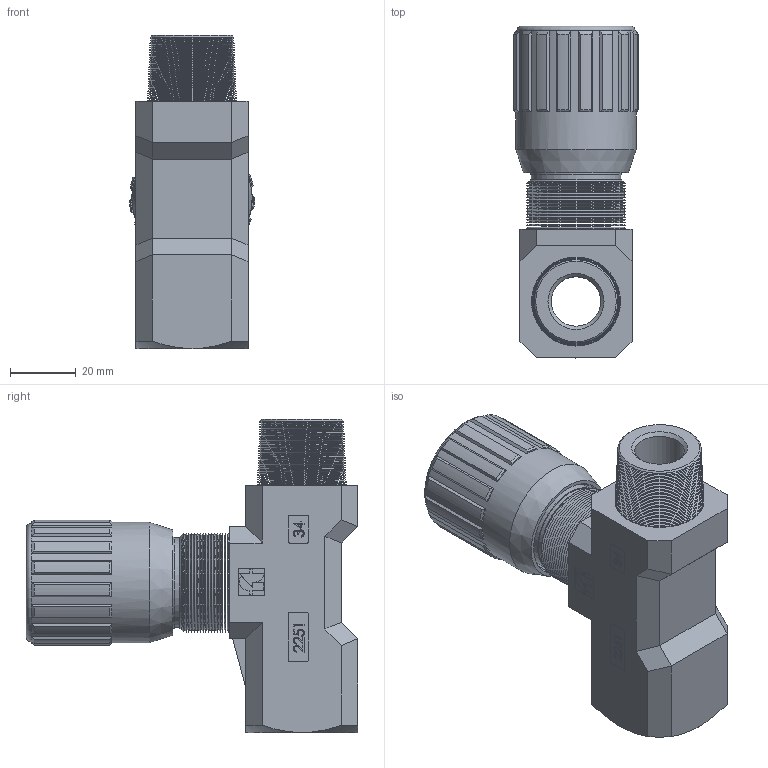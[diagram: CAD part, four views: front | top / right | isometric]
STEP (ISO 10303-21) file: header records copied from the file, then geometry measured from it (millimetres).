
FILE_DESCRIPTION (( 'STEP AP214' ), '1' );
FILE_NAME ('FT2251-2-34 - MF.STEP', '2015-04-16T13:04:16', ( 'cperuzzotti' ), ( 'Hewlett-Packard Company' ), 'SwSTEP 2.0', 'SolidWorks 2014', '' );
FILE_SCHEMA (( 'AUTOMOTIVE_DESIGN' ));
Length unit declared in the file: millimetre
Products named in the file (1): FT2251-2-34 - MF
Bounding box: 37.99 x 100.6 x 95 mm (x, y, z)
Surface area: 30600.9 mm2 (no closed solid volume)
Topology: 0 solids, 29 shells, 542 faces, 1803 edges, 1212 vertices
Faces by surface type: plane 289, cone 165, cylinder 56, bspline 31, torus 1
Full cylindrical faces by diameter (mm): 2.5 x1, 5 x1, 15 x1, 27.1 x1, 27.6 x1, 30 x1, 36.5 x1
Entity records: 27088 total; most frequent: CARTESIAN_POINT 6470, DIRECTION 2858, ORIENTED_EDGE 2705, EDGE_CURVE 1656, VERTEX_POINT 1200, LINE 1094, VECTOR 1094, AXIS2_PLACEMENT_3D 882
